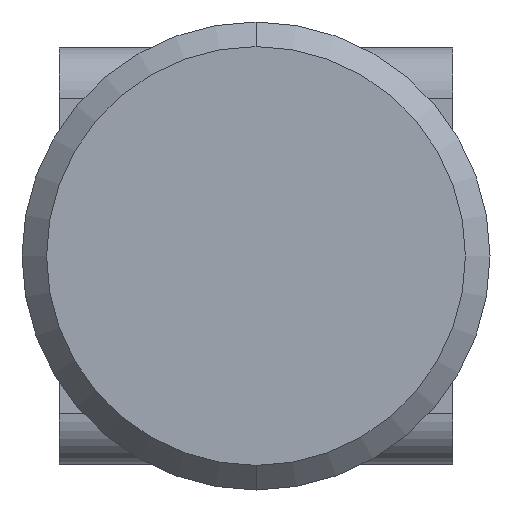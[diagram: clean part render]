
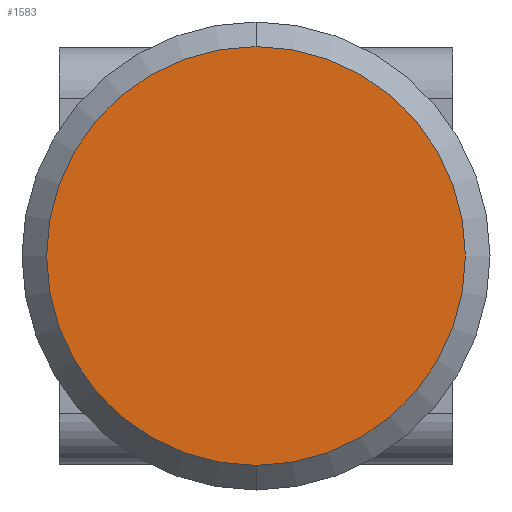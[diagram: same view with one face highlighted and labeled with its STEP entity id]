
A CAD part, front view. The second image highlights one B-rep face of the part: STEP entity #1583.
In plain terms, the highlighted planar face has unit normal (0, -1, 0).
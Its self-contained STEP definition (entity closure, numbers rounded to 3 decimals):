
#110 = EDGE_CURVE ( 'NONE', #1216, #1230, #2167, .T. ) ;
#521 = CARTESIAN_POINT ( 'NONE',  ( 0., 0., 0. ) ) ;
#522 = DIRECTION ( 'NONE',  ( 0., -1., 0. ) ) ;
#523 = DIRECTION ( 'NONE',  ( 0., 0., -1. ) ) ;
#530 = CARTESIAN_POINT ( 'NONE',  ( 0., 0., -8.525 ) ) ;
#682 = CARTESIAN_POINT ( 'NONE',  ( -9.525, 0., 0. ) ) ;
#689 = PLANE ( 'NONE',  #2521 ) ;
#692 = DIRECTION ( 'NONE',  ( 0., -1., 0. ) ) ;
#693 = DIRECTION ( 'NONE',  ( 0., 0., -1. ) ) ;
#770 = CARTESIAN_POINT ( 'NONE',  ( 0., 0., 0. ) ) ;
#771 = DIRECTION ( 'NONE',  ( 0., -1., 0. ) ) ;
#772 = DIRECTION ( 'NONE',  ( 0., 0., -1. ) ) ;
#855 = FACE_OUTER_BOUND ( 'NONE', #2100, .T. ) ;
#987 = CIRCLE ( 'NONE', #2504, 8.525 ) ;
#1106 = CARTESIAN_POINT ( 'NONE',  ( 0., 0., 8.525 ) ) ;
#1216 = VERTEX_POINT ( 'NONE', #1106 ) ;
#1230 = VERTEX_POINT ( 'NONE', #530 ) ;
#1583 = ADVANCED_FACE ( 'NONE', ( #855 ), #689, .T. ) ;
#1857 = ORIENTED_EDGE ( 'NONE', *, *, #110, .T. ) ;
#1858 = ORIENTED_EDGE ( 'NONE', *, *, #2552, .T. ) ;
#2100 = EDGE_LOOP ( 'NONE', ( #1857, #1858 ) ) ;
#2167 = CIRCLE ( 'NONE', #2624, 8.525 ) ;
#2504 = AXIS2_PLACEMENT_3D ( 'NONE', #521, #522, #523 ) ;
#2521 = AXIS2_PLACEMENT_3D ( 'NONE', #682, #692, #693 ) ;
#2552 = EDGE_CURVE ( 'NONE', #1230, #1216, #987, .T. ) ;
#2624 = AXIS2_PLACEMENT_3D ( 'NONE', #770, #771, #772 ) ;
